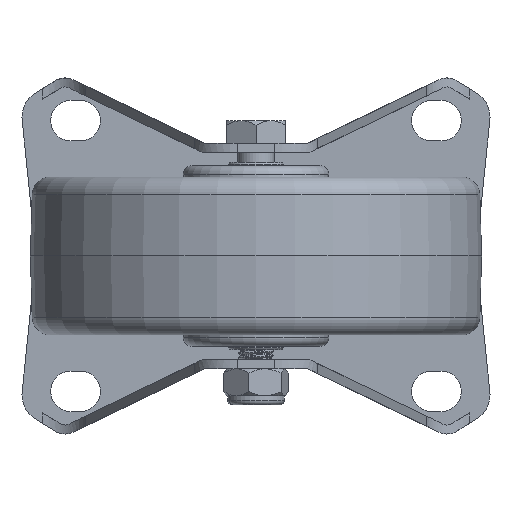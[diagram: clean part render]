
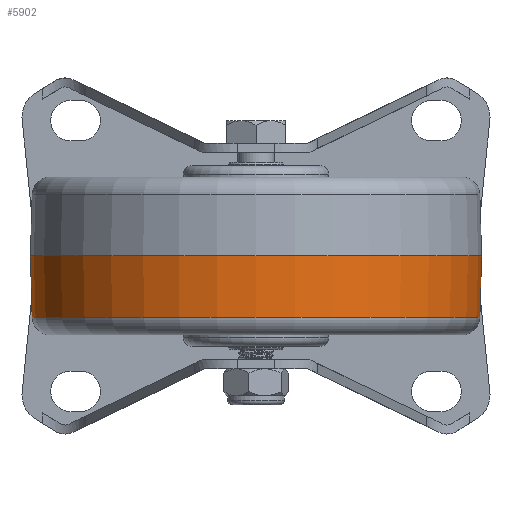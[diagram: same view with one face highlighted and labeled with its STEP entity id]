
A CAD part, front view. The second image highlights one B-rep face of the part: STEP entity #5902.
In plain terms, the highlighted conical face has half-angle 1.637 degrees and reference radius 49.611 mm.
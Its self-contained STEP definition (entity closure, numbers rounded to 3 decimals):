
#150 = ORIENTED_EDGE ( 'NONE', *, *, #552, .F. ) ;
#310 = CARTESIAN_POINT ( 'NONE',  ( -13.614, 0., -49.611 ) ) ;
#552 = EDGE_CURVE ( 'NONE', #11222, #16304, #3725, .T. ) ;
#1804 = CARTESIAN_POINT ( 'NONE',  ( -13.614, 0., 0. ) ) ;
#3586 = AXIS2_PLACEMENT_3D ( 'NONE', #18653, #12876, #26976 ) ;
#3725 = LINE ( 'NONE', #18764, #29048 ) ;
#5827 = AXIS2_PLACEMENT_3D ( 'NONE', #1804, #20117, #17030 ) ;
#5878 = VECTOR ( 'NONE', #12077, 1000. ) ;
#5902 = ADVANCED_FACE ( 'NONE', ( #16099 ), #31158, .T. ) ;
#6281 = LINE ( 'NONE', #310, #5878 ) ;
#9643 = AXIS2_PLACEMENT_3D ( 'NONE', #18885, #27221, #12730 ) ;
#10095 = VERTEX_POINT ( 'NONE', #27752 ) ;
#10334 = EDGE_CURVE ( 'NONE', #28179, #16304, #26457, .T. ) ;
#11222 = VERTEX_POINT ( 'NONE', #33153 ) ;
#12077 = DIRECTION ( 'NONE',  ( 1., 0., -0.029 ) ) ;
#12730 = DIRECTION ( 'NONE',  ( 0., 0., 1. ) ) ;
#12806 = EDGE_CURVE ( 'NONE', #10095, #28179, #6281, .T. ) ;
#12876 = DIRECTION ( 'NONE',  ( -1., 0., 0. ) ) ;
#16099 = FACE_OUTER_BOUND ( 'NONE', #31053, .T. ) ;
#16304 = VERTEX_POINT ( 'NONE', #23078 ) ;
#17030 = DIRECTION ( 'NONE',  ( 0., 0., 1. ) ) ;
#18653 = CARTESIAN_POINT ( 'NONE',  ( 0., 0., 0. ) ) ;
#18764 = CARTESIAN_POINT ( 'NONE',  ( -13.614, 0., 49.611 ) ) ;
#18885 = CARTESIAN_POINT ( 'NONE',  ( -13.614, 0., 0. ) ) ;
#19836 = EDGE_CURVE ( 'NONE', #10095, #11222, #21952, .T. ) ;
#20117 = DIRECTION ( 'NONE',  ( 1., 0., 0. ) ) ;
#20793 = ORIENTED_EDGE ( 'NONE', *, *, #10334, .T. ) ;
#21952 = CIRCLE ( 'NONE', #9643, 49.611 ) ;
#23078 = CARTESIAN_POINT ( 'NONE',  ( 0., 0., 50. ) ) ;
#26457 = CIRCLE ( 'NONE', #3586, 50. ) ;
#26976 = DIRECTION ( 'NONE',  ( 0., 0., 1. ) ) ;
#27221 = DIRECTION ( 'NONE',  ( -1., 0., 0. ) ) ;
#27752 = CARTESIAN_POINT ( 'NONE',  ( -13.614, 0., -49.611 ) ) ;
#28094 = ORIENTED_EDGE ( 'NONE', *, *, #12806, .T. ) ;
#28179 = VERTEX_POINT ( 'NONE', #33295 ) ;
#29048 = VECTOR ( 'NONE', #35962, 1000. ) ;
#31053 = EDGE_LOOP ( 'NONE', ( #36206, #28094, #20793, #150 ) ) ;
#31158 = CONICAL_SURFACE ( 'NONE', #5827, 49.611, 0.029 ) ;
#33153 = CARTESIAN_POINT ( 'NONE',  ( -13.614, 0., 49.611 ) ) ;
#33295 = CARTESIAN_POINT ( 'NONE',  ( 0., 0., -50. ) ) ;
#35962 = DIRECTION ( 'NONE',  ( 1., 0., 0.029 ) ) ;
#36206 = ORIENTED_EDGE ( 'NONE', *, *, #19836, .F. ) ;
